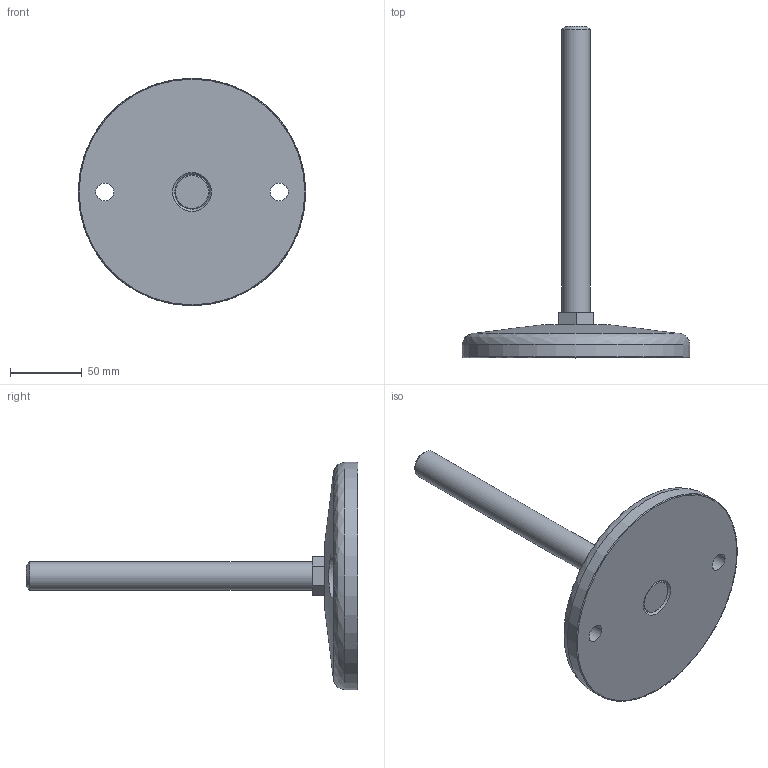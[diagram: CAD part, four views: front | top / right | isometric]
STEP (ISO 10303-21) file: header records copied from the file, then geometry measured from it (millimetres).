
FILE_DESCRIPTION(('STEP AP203'),'2;1');
FILE_NAME('12434.stp','2017-04-10T15:16:01',(''),(''),'2008.1.107','THINKDESIGN','');
FILE_SCHEMA(('CONFIG_CONTROL_DESIGN'));
Length unit declared in the file: millimetre
Bounding box: 159 x 232 x 159 mm (x, y, z)
Volume: 441860.8 mm3; surface area: 65717.9 mm2
Topology: 4 solids, 4 shells, 41 faces, 102 edges, 70 vertices
Faces by surface type: plane 20, cylinder 14, bspline 7
Full cylindrical faces by diameter (mm): 12.5 x2, 20 x1, 22 x1, 24 x1, 159 x1
Entity records: 1981 total; most frequent: CARTESIAN_POINT 808, DIRECTION 202, ORIENTED_EDGE 202, EDGE_CURVE 101, AXIS2_PLACEMENT_3D 79, VERTEX_POINT 68, EDGE_LOOP 47, CIRCLE 45
